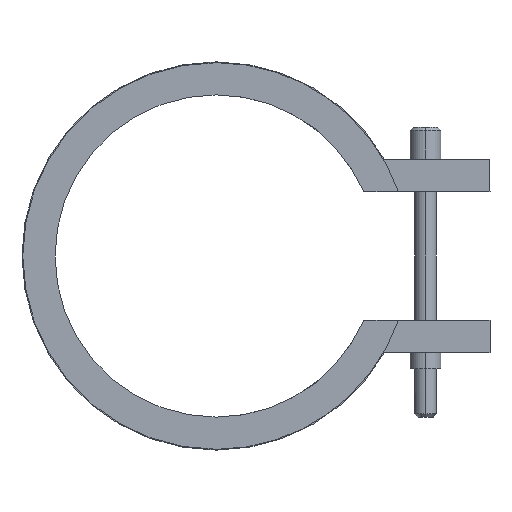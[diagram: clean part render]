
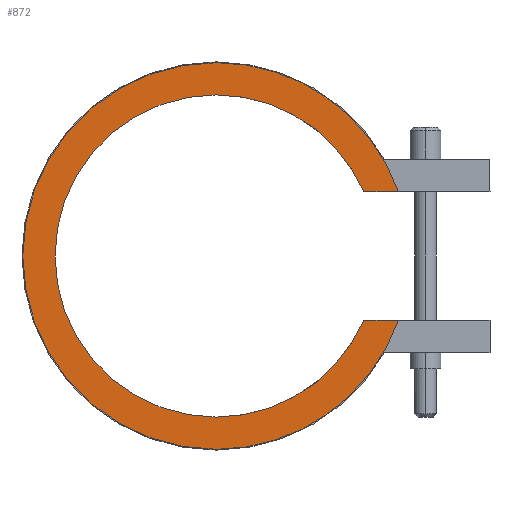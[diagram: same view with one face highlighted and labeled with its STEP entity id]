
A CAD part, left-side view. The second image highlights one B-rep face of the part: STEP entity #872.
In plain terms, the highlighted planar face has unit normal (-1, 0, 0).
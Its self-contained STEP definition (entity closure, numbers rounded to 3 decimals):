
#410=CARTESIAN_POINT('Vertex',(-12.5,-18.33,-8.)) ;
#413=CARTESIAN_POINT('Line Origine',(-12.5,-20.479,-8.)) ;
#417=CARTESIAN_POINT('Vertex',(-12.5,-22.627,-8.)) ;
#463=CARTESIAN_POINT('Vertex',(-12.5,0.,-24.)) ;
#466=CARTESIAN_POINT('Axis2P3D Location',(-12.5,0.,0.)) ;
#487=CARTESIAN_POINT('Vertex',(-12.5,0.,24.)) ;
#490=CARTESIAN_POINT('Axis2P3D Location',(-12.5,0.,0.)) ;
#502=CARTESIAN_POINT('Axis2P3D Location',(-12.5,0.,0.)) ;
#506=CARTESIAN_POINT('Vertex',(-12.5,-22.627,8.)) ;
#526=CARTESIAN_POINT('Line Origine',(-12.5,-20.479,8.)) ;
#530=CARTESIAN_POINT('Vertex',(-12.5,-18.33,8.)) ;
#818=CARTESIAN_POINT('Axis2P3D Location',(-12.5,0.,0.)) ;
#822=CARTESIAN_POINT('Vertex',(-12.5,0.,-20.)) ;
#845=CARTESIAN_POINT('Axis2P3D Location',(-12.5,0.,0.)) ;
#850=CARTESIAN_POINT('Axis2P3D Location',(-12.5,0.,0.)) ;
#854=CARTESIAN_POINT('Vertex',(-12.5,0.,20.)) ;
#857=CARTESIAN_POINT('Axis2P3D Location',(-12.5,0.,0.)) ;
#414=DIRECTION('Vector Direction',(0.,1.,0.)) ;
#467=DIRECTION('Axis2P3D Direction',(1.,0.,-0.)) ;
#491=DIRECTION('Axis2P3D Direction',(1.,0.,-0.)) ;
#503=DIRECTION('Axis2P3D Direction',(1.,0.,-0.)) ;
#527=DIRECTION('Vector Direction',(0.,-1.,0.)) ;
#819=DIRECTION('Axis2P3D Direction',(1.,0.,-0.)) ;
#846=DIRECTION('Axis2P3D Direction',(1.,0.,0.)) ;
#847=DIRECTION('Axis2P3D XDirection',(0.,0.,-1.)) ;
#851=DIRECTION('Axis2P3D Direction',(1.,0.,0.)) ;
#858=DIRECTION('Axis2P3D Direction',(1.,0.,0.)) ;
#468=AXIS2_PLACEMENT_3D('Circle Axis2P3D',#466,#467,$) ;
#492=AXIS2_PLACEMENT_3D('Circle Axis2P3D',#490,#491,$) ;
#504=AXIS2_PLACEMENT_3D('Circle Axis2P3D',#502,#503,$) ;
#820=AXIS2_PLACEMENT_3D('Circle Axis2P3D',#818,#819,$) ;
#848=AXIS2_PLACEMENT_3D('Plane Axis2P3D',#845,#846,#847) ;
#852=AXIS2_PLACEMENT_3D('Circle Axis2P3D',#850,#851,$) ;
#859=AXIS2_PLACEMENT_3D('Circle Axis2P3D',#857,#858,$) ;
#863=ORIENTED_EDGE('',*,*,#419,.T.) ;
#864=ORIENTED_EDGE('',*,*,#824,.T.) ;
#865=ORIENTED_EDGE('',*,*,#856,.T.) ;
#866=ORIENTED_EDGE('',*,*,#861,.T.) ;
#867=ORIENTED_EDGE('',*,*,#532,.T.) ;
#868=ORIENTED_EDGE('',*,*,#508,.F.) ;
#869=ORIENTED_EDGE('',*,*,#494,.F.) ;
#870=ORIENTED_EDGE('',*,*,#470,.F.) ;
#415=VECTOR('Line Direction',#414,1.) ;
#528=VECTOR('Line Direction',#527,1.) ;
#872=ADVANCED_FACE('14040025',(#871),#849,.F.) ;
#469=CIRCLE('generated circle',#468,24.) ;
#493=CIRCLE('generated circle',#492,24.) ;
#505=CIRCLE('generated circle',#504,24.) ;
#821=CIRCLE('generated circle',#820,20.) ;
#853=CIRCLE('generated circle',#852,20.) ;
#860=CIRCLE('generated circle',#859,20.) ;
#419=EDGE_CURVE('',#418,#411,#416,.T.) ;
#470=EDGE_CURVE('',#418,#464,#469,.T.) ;
#494=EDGE_CURVE('',#464,#488,#493,.T.) ;
#508=EDGE_CURVE('',#488,#507,#505,.T.) ;
#532=EDGE_CURVE('',#531,#507,#529,.T.) ;
#824=EDGE_CURVE('',#411,#823,#821,.T.) ;
#856=EDGE_CURVE('',#823,#855,#853,.T.) ;
#861=EDGE_CURVE('',#855,#531,#860,.T.) ;
#862=EDGE_LOOP('',(#863,#864,#865,#866,#867,#868,#869,#870)) ;
#871=FACE_OUTER_BOUND('',#862,.T.) ;
#416=LINE('Line',#413,#415) ;
#529=LINE('Line',#526,#528) ;
#849=PLANE('Plane',#848) ;
#411=VERTEX_POINT('',#410) ;
#418=VERTEX_POINT('',#417) ;
#464=VERTEX_POINT('',#463) ;
#488=VERTEX_POINT('',#487) ;
#507=VERTEX_POINT('',#506) ;
#531=VERTEX_POINT('',#530) ;
#823=VERTEX_POINT('',#822) ;
#855=VERTEX_POINT('',#854) ;
